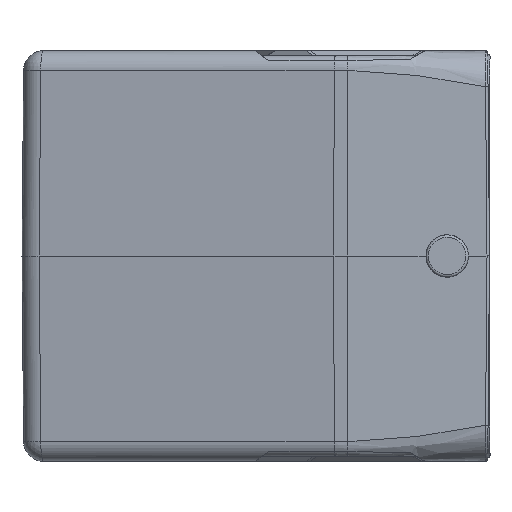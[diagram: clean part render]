
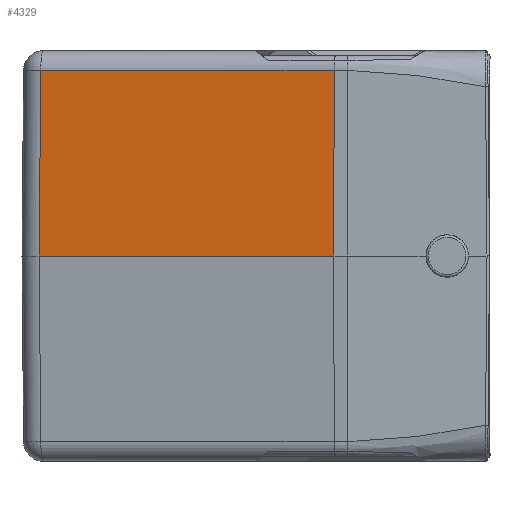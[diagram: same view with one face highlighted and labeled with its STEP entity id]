
A CAD part, left-side view. The second image highlights one B-rep face of the part: STEP entity #4329.
In plain terms, the highlighted planar face has unit normal (-0.99, 0.139, 0.009).
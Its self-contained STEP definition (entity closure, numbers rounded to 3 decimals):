
#98 = CARTESIAN_POINT ( 'NONE',  ( -38.484, 43.557, -0.026 ) ) ;
#1724 = EDGE_CURVE ( 'NONE', #13204, #16540, #6682, .T. ) ;
#2453 = ORIENTED_EDGE ( 'NONE', *, *, #1724, .T. ) ;
#2557 = CARTESIAN_POINT ( 'NONE',  ( -46.805, -15.653, -0.001 ) ) ;
#2739 = DIRECTION ( 'NONE',  ( -0.009, 0.001, -1. ) ) ;
#2790 = EDGE_CURVE ( 'NONE', #6032, #10250, #7527, .T. ) ;
#3090 = DIRECTION ( 'NONE',  ( 0.008, -0.009, 1. ) ) ;
#3481 = ORIENTED_EDGE ( 'NONE', *, *, #6192, .F. ) ;
#3484 = LINE ( 'NONE', #98, #13783 ) ;
#3790 = VECTOR ( 'NONE', #4133, 1000. ) ;
#4133 = DIRECTION ( 'NONE',  ( -0.139, -0.99, 0. ) ) ;
#4329 = ADVANCED_FACE ( 'NONE', ( #12941 ), #7355, .T. ) ;
#5481 = CARTESIAN_POINT ( 'NONE',  ( -34.698, 68.154, 37.285 ) ) ;
#6032 = VERTEX_POINT ( 'NONE', #17612 ) ;
#6192 = EDGE_CURVE ( 'NONE', #10250, #16540, #7046, .T. ) ;
#6682 = LINE ( 'NONE', #12455, #9047 ) ;
#6907 = CARTESIAN_POINT ( 'NONE',  ( -38.484, 43.557, 0. ) ) ;
#7046 = LINE ( 'NONE', #2557, #8345 ) ;
#7355 = PLANE ( 'NONE',  #15823 ) ;
#7527 = LINE ( 'NONE', #5481, #3790 ) ;
#8345 = VECTOR ( 'NONE', #2739, 1000. ) ;
#8514 = ORIENTED_EDGE ( 'NONE', *, *, #2790, .F. ) ;
#8865 = DIRECTION ( 'NONE',  ( -0.99, 0.139, 0.009 ) ) ;
#9047 = VECTOR ( 'NONE', #16568, 1000. ) ;
#9323 = CARTESIAN_POINT ( 'NONE',  ( -46.805, -15.653, 0. ) ) ;
#10144 = CARTESIAN_POINT ( 'NONE',  ( -38., 47., 0. ) ) ;
#10250 = VERTEX_POINT ( 'NONE', #12387 ) ;
#10721 = EDGE_CURVE ( 'NONE', #13204, #6032, #3484, .T. ) ;
#12387 = CARTESIAN_POINT ( 'NONE',  ( -46.48, -15.676, 37.285 ) ) ;
#12455 = CARTESIAN_POINT ( 'NONE',  ( -38., 47., 0. ) ) ;
#12941 = FACE_OUTER_BOUND ( 'NONE', #15684, .T. ) ;
#13204 = VERTEX_POINT ( 'NONE', #6907 ) ;
#13783 = VECTOR ( 'NONE', #3090, 1000. ) ;
#14420 = DIRECTION ( 'NONE',  ( -0.139, -0.99, 0. ) ) ;
#15684 = EDGE_LOOP ( 'NONE', ( #18096, #2453, #3481, #8514 ) ) ;
#15823 = AXIS2_PLACEMENT_3D ( 'NONE', #10144, #8865, #14420 ) ;
#16540 = VERTEX_POINT ( 'NONE', #9323 ) ;
#16568 = DIRECTION ( 'NONE',  ( -0.139, -0.99, 0. ) ) ;
#17612 = CARTESIAN_POINT ( 'NONE',  ( -38.201, 43.231, 37.285 ) ) ;
#18096 = ORIENTED_EDGE ( 'NONE', *, *, #10721, .F. ) ;
